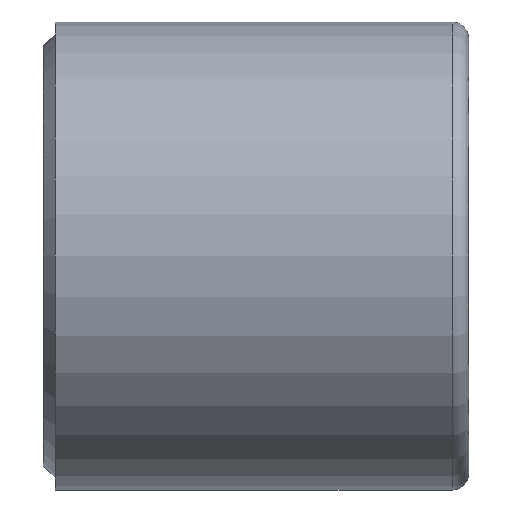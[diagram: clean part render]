
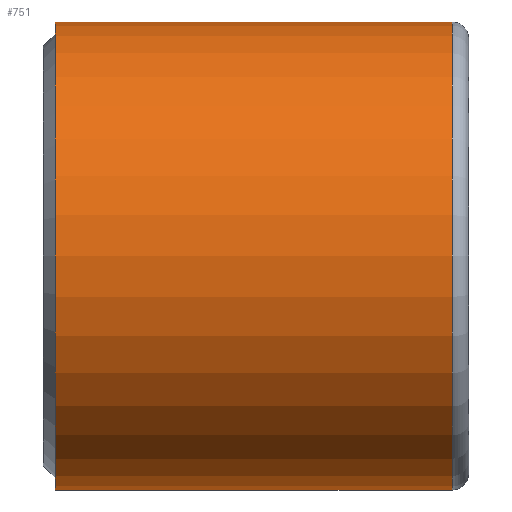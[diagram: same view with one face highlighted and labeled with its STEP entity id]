
A CAD part, front view. The second image highlights one B-rep face of the part: STEP entity #751.
In plain terms, the highlighted cylindrical face has radius 27.28 mm (diameter 54.559 mm), a partial arc.
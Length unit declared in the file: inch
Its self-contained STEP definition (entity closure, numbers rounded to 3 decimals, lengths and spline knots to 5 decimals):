
#6 = EDGE_CURVE ( 'NONE', #564, #479, #395, .T. ) ;
#12 = DIRECTION ( 'NONE',  ( 0., 0., 1. ) ) ;
#16 = DIRECTION ( 'NONE',  ( -1., 0., 0. ) ) ;
#26 = ORIENTED_EDGE ( 'NONE', *, *, #181, .F. ) ;
#59 = LINE ( 'NONE', #430, #336 ) ;
#99 = CARTESIAN_POINT ( 'NONE',  ( 0., 0., -1.074 ) ) ;
#106 = EDGE_LOOP ( 'NONE', ( #346, #234, #225, #26 ) ) ;
#122 = DIRECTION ( 'NONE',  ( 0., 0., 1. ) ) ;
#181 = EDGE_CURVE ( 'NONE', #479, #258, #654, .T. ) ;
#225 = ORIENTED_EDGE ( 'NONE', *, *, #926, .T. ) ;
#234 = ORIENTED_EDGE ( 'NONE', *, *, #275, .T. ) ;
#254 = VERTEX_POINT ( 'NONE', #929 ) ;
#258 = VERTEX_POINT ( 'NONE', #353 ) ;
#271 = CARTESIAN_POINT ( 'NONE',  ( 1.87674, 0., 0. ) ) ;
#275 = EDGE_CURVE ( 'NONE', #564, #254, #652, .T. ) ;
#306 = CARTESIAN_POINT ( 'NONE',  ( 0., 0., 0. ) ) ;
#336 = VECTOR ( 'NONE', #420, 39.37008 ) ;
#338 = AXIS2_PLACEMENT_3D ( 'NONE', #306, #837, #391 ) ;
#346 = ORIENTED_EDGE ( 'NONE', *, *, #6, .F. ) ;
#353 = CARTESIAN_POINT ( 'NONE',  ( 0.05474, 0., 1.074 ) ) ;
#391 = DIRECTION ( 'NONE',  ( 0., 0., 1. ) ) ;
#395 = LINE ( 'NONE', #99, #589 ) ;
#420 = DIRECTION ( 'NONE',  ( -1., 0., 0. ) ) ;
#430 = CARTESIAN_POINT ( 'NONE',  ( 0., 0., 1.074 ) ) ;
#432 = CARTESIAN_POINT ( 'NONE',  ( 1.87674, 0., -1.074 ) ) ;
#479 = VERTEX_POINT ( 'NONE', #668 ) ;
#526 = AXIS2_PLACEMENT_3D ( 'NONE', #676, #659, #12 ) ;
#564 = VERTEX_POINT ( 'NONE', #432 ) ;
#579 = DIRECTION ( 'NONE',  ( -1., 0., 0. ) ) ;
#589 = VECTOR ( 'NONE', #16, 39.37008 ) ;
#652 = CIRCLE ( 'NONE', #896, 1.074 ) ;
#654 = CIRCLE ( 'NONE', #526, 1.074 ) ;
#659 = DIRECTION ( 'NONE',  ( -1., 0., 0. ) ) ;
#668 = CARTESIAN_POINT ( 'NONE',  ( 0.05474, 0., -1.074 ) ) ;
#676 = CARTESIAN_POINT ( 'NONE',  ( 0.05474, 0., 0. ) ) ;
#747 = CYLINDRICAL_SURFACE ( 'NONE', #338, 1.074 ) ;
#751 = ADVANCED_FACE ( 'NONE', ( #876 ), #747, .T. ) ;
#837 = DIRECTION ( 'NONE',  ( -1., 0., 0. ) ) ;
#876 = FACE_OUTER_BOUND ( 'NONE', #106, .T. ) ;
#896 = AXIS2_PLACEMENT_3D ( 'NONE', #271, #579, #122 ) ;
#926 = EDGE_CURVE ( 'NONE', #254, #258, #59, .T. ) ;
#929 = CARTESIAN_POINT ( 'NONE',  ( 1.87674, 0., 1.074 ) ) ;
